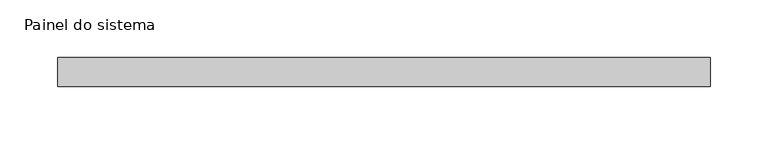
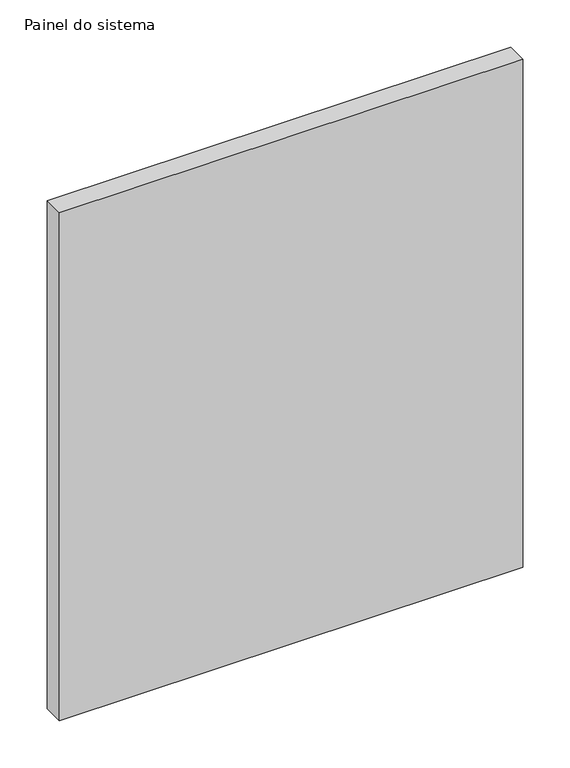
"""IFC4 building model written with IfcOpenShell, lengths in millimetres: plate geometry, Painel do sistema : Envidraçado."""

from ifc_helpers import new_model, si_unit, origin, origin_with_axes, place, context, project, spatial, polyline, outline, extrude, source, transform, mapped, element, save


def painel_do_sistema_86f4a07e(model_context):
    return source(origin(), model_context, "Body", "SweptSolid", [
        extrude(outline(polyline([(282.5, 24.5), (-282.5, 24.5), (-282.5, 49.5), (282.5, 49.5), (282.5, 24.5)])), origin_with_axes(), (0.0, 0.0, 1.0), 655.0),
    ])


if __name__ == "__main__":
    model = new_model("IFC4")
    model_context = context("Model", 3, world=origin())
    ifc_project = project(units=[si_unit("LENGTHUNIT", "METRE", prefix="MILLI")], contexts=[model_context])
    site = spatial("IfcSite", under=ifc_project)
    building = spatial("IfcBuilding", under=site)
    placement = place(None, origin())
    painel_do_sistema_shape = painel_do_sistema_86f4a07e(model_context)
    element("IfcPlate", 1, ObjectType="Painel do sistema : Envidraçado", at=placement, inside=building, context=model_context, shape_type="MappedRepresentation", body=[
        mapped(painel_do_sistema_shape, transform((0.0, 0.0, 0.0), x_axis=(1.0, 0.0, 0.0), y_axis=(0.0, 1.0, 0.0), z_axis=(0.0, 0.0, 1.0))),
    ])
    save(model, "model.ifc")
